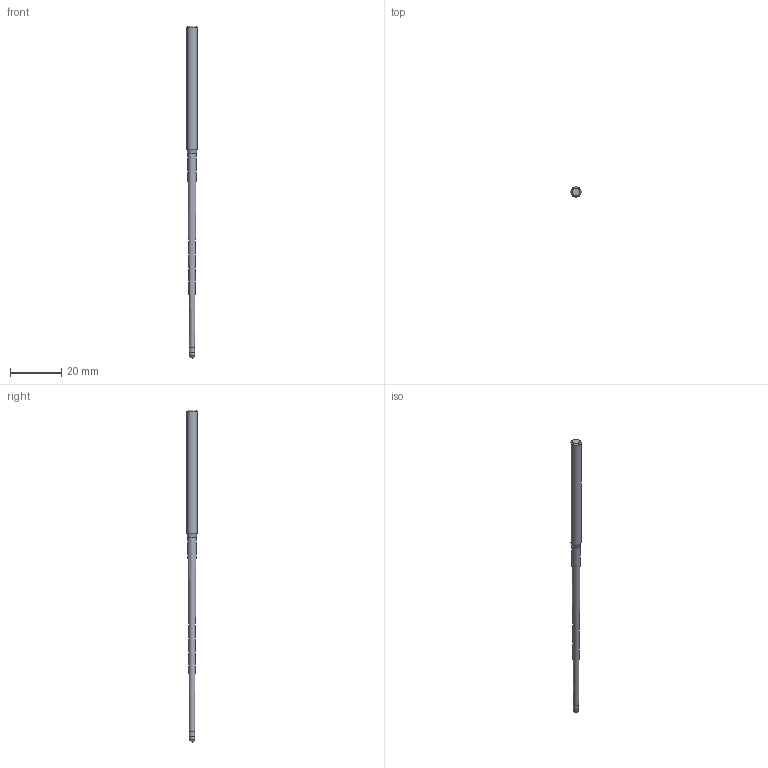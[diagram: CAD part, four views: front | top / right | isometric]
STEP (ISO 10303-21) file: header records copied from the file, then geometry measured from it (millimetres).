
FILE_DESCRIPTION((''),'2;1');
FILE_NAME('C:\Users\nsx150\AppData\Local\Temp\Mastercam 2021\SNAKH10GOD\TEMP.step','2021-10-21T13:33:08',(''),(''),'STEP Write','Mastercam 2021 ... CNC Software, Inc.','');
FILE_SCHEMA(('AUTOMOTIVE_DESIGN'));
Length unit declared in the file: millimetre
Products named in the file (1): None
Bounding box: 4 x 4 x 130 mm (x, y, z)
Volume: 1065.7 mm3; surface area: 1301.4 mm2
Topology: 2 solids, 2 shells, 10 faces, 16 edges, 9 vertices
Faces by surface type: plane 3, cylinder 3, cone 3, sphere 1
Full cylindrical faces by diameter (mm): 1.985 x1, 2 x1, 4 x1
Entity records: 232 total; most frequent: DIRECTION 40, CARTESIAN_POINT 28, AXIS2_PLACEMENT_3D 20, ORIENTED_EDGE 16, EDGE_LOOP 16, STYLED_ITEM 13, ADVANCED_FACE 10, FACE_BOUND 9
